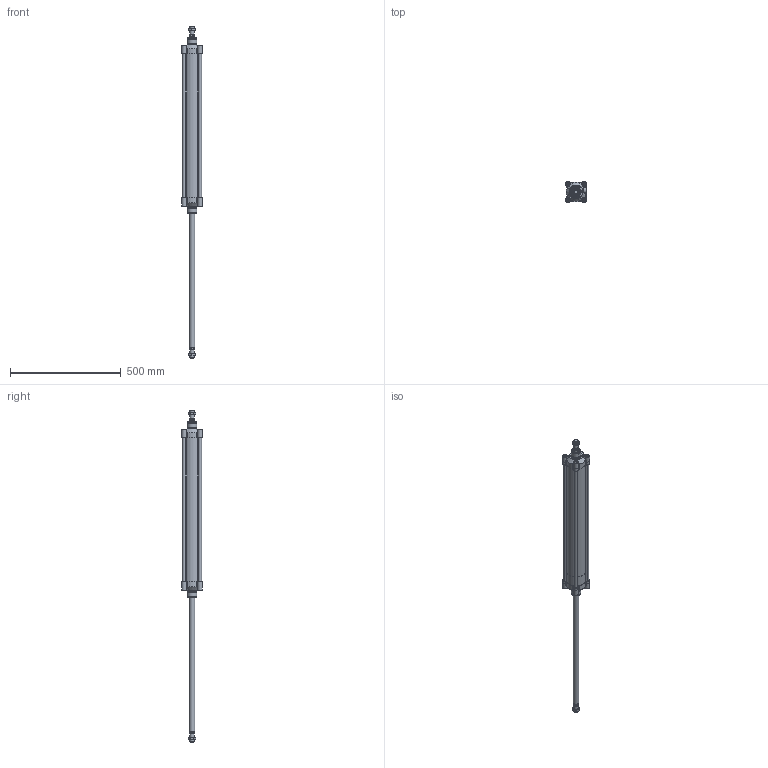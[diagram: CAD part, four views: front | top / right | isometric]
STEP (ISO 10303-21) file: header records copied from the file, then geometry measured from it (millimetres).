
FILE_DESCRIPTION(/* description */ ('Unknown'),/* implementation_level */ '2;1');
FILE_NAME(/* name */ 'HBF 80_600',/* time_stamp */ '2024-08-07T12:01:28+02:00',/* author */ ('Unknown'),/* organization */ ('Unknown'),/* preprocessor_version */ 'ST-DEVELOPER v16.7',/* originating_system */ 'Solid Edge',/* authorisation */ 'Unknown');
FILE_SCHEMA (('AUTOMOTIVE_DESIGN {1 0 10303 214 3 1 1}'));
Length unit declared in the file: millimetre
Products named in the file (6): HBF 80_600; Kit; Profilrohr 80_600; Kolbenstange_1_80_600; Mutter; Kolbenstange_2_80_600
Assembly tree (7 placements, depth 2):
  HBF 80_600
    Kit  x2
    Profilrohr 80_600
    Kolbenstange_1_80_600
    Mutter  x2
    Kolbenstange_2_80_600
Bounding box: 93 x 93 x 1500 mm (x, y, z)
Volume: 2263538.2 mm3; surface area: 837840.7 mm2
Topology: 7 solids, 21 shells, 1375 faces, 3351 edges, 2066 vertices
Faces by surface type: cylinder 507, plane 398, cone 174, torus 114, sphere 106, bspline 76
Full cylindrical faces by diameter (mm): 8.376 x16, 10 x8, 10.3 x8, 12 x2, 13 x2, 14.94 x2, 14.95 x2, 16 x8, 16.3 x8, 17.5 x2, 18.376 x2, 20 x2, 24.5 x2, 25 x4, 25.8 x2, 25.962 x2, 30 x2, 31.5 x2, 35 x4, 43.5 x2, 45 x2, 80 x3
Entity records: 29567 total; most frequent: CARTESIAN_POINT 7568, ORIENTED_EDGE 3700, DIRECTION 3465, EDGE_CURVE 1850, AXIS2_PLACEMENT_3D 1418, VERTEX_POINT 1190, FACE_BOUND 890, EDGE_LOOP 886
